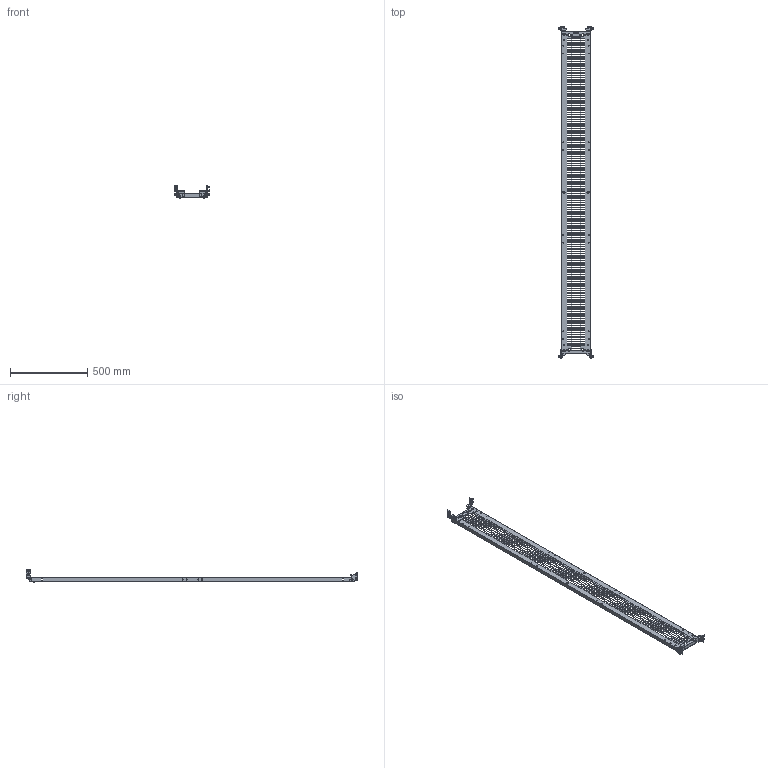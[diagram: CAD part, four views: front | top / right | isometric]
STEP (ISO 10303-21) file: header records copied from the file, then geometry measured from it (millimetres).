
FILE_DESCRIPTION (( 'STEP AP203' ), '1' );
FILE_NAME ('R5NPCEP2230.STEP', '2025-03-26T11:03:45', ( '' ), ( '' ), 'SwSTEP 2.0', 'SolidWorks 2022', '' );
FILE_SCHEMA (( 'CONFIG_CONTROL_DESIGN' ));
Length unit declared in the file: millimetre
Products named in the file (20): RB.2814.00.00.0 СБ_-01; RB.2814.00.01.0_-01; RB.2709.00.00.0; R5NPCEP2230; RB.2684.00.00.0 СБ_-01; М6 D87181 Zinc_In a tightened position (1.5 mm); RB.1499.00.03.0; M6x16 DIN 7985 Torx cl.8,8 Zinc_stright; RB.2814.00.00.0 СБ; M6 MGR-MKO-0625_1,5mm (thread); RB.2697.00.00.0; RB.2684.00.00.0 СБ; 003-006-19 GOST 9833-73; RB.2814.00.01.0; RB.2684.00.03.0; AC00C237; M6x16 DIN 912 HX cl.4,8 Zinc_thread; RB.2684.00.01.0; RB.2684.00.01.0_-01; RB.2628.00.00.0_-30
Assembly tree (43 placements, depth 3):
  R5NPCEP2230
    RB.2628.00.00.0_-30
    RB.2814.00.00.0 СБ_-01
      RB.2814.00.01.0_-01
      M6 MGR-MKO-0625_1,5mm (thread)
    RB.2814.00.00.0 СБ
      RB.2814.00.01.0
      M6 MGR-MKO-0625_1,5mm (thread)
    M6x16 DIN 912 HX cl.4,8 Zinc_thread  x2
    AC00C237  x2
    RB.2684.00.00.0 СБ_-01
      RB.2684.00.01.0_-01
      RB.2684.00.03.0
      RB.1499.00.03.0
      RB.2697.00.00.0
      003-006-19 GOST 9833-73  x2
    RB.2684.00.00.0 СБ
      RB.2684.00.01.0
      RB.2684.00.03.0
      RB.1499.00.03.0
      003-006-19 GOST 9833-73  x2
      RB.2697.00.00.0
    M6x16 DIN 7985 Torx cl.8,8 Zinc_stright  x8
    М6 D87181 Zinc_In a tightened position (1.5 mm)  x8
    RB.2709.00.00.0  x2
Bounding box: 228.3 x 2150.46 x 84.5 mm (x, y, z)
Volume: 1138143.4 mm3; surface area: 1029840.7 mm2
Topology: 39 solids, 39 shells, 4425 faces, 12519 edges, 8103 vertices
Faces by surface type: plane 3286, cylinder 512, bspline 301, cone 186, torus 132, sphere 8
Full cylindrical faces by diameter (mm): 0.6 x12, 2.3 x4, 2.5 x4, 3.8 x6, 4 x2, 4.2 x4, 4.92 x14, 5 x16, 6 x58, 6.5 x8, 6.7 x2, 7 x12, 7.5 x2, 8 x4, 8.3 x8, 9 x6, 10 x4, 12 x26, 15 x6
Entity records: 104611 total; most frequent: CARTESIAN_POINT 21493, ORIENTED_EDGE 16924, DIRECTION 14671, EDGE_CURVE 8462, VECTOR 7837, LINE 7837, VERTEX_POINT 5708, EDGE_LOOP 4454
